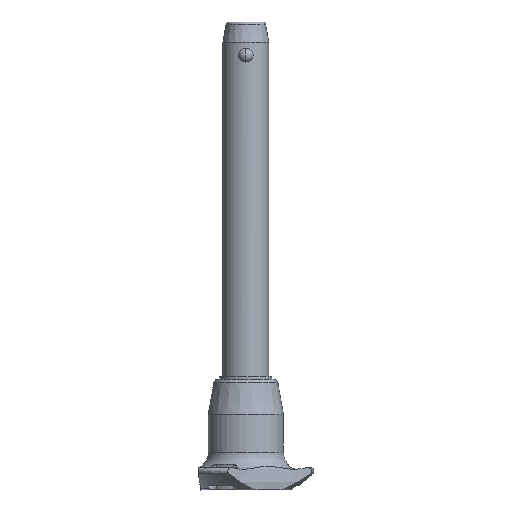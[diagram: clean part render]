
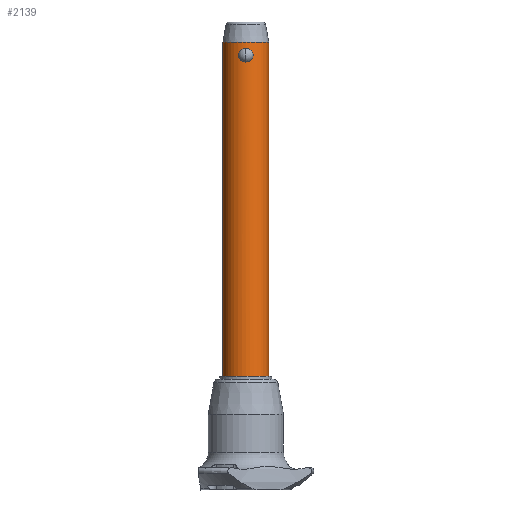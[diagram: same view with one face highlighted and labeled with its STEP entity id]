
A CAD part, front view. The second image highlights one B-rep face of the part: STEP entity #2139.
In plain terms, the highlighted cylindrical face has radius 8 mm (diameter 16 mm), a partial arc.
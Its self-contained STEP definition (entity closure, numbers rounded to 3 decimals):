
#9 = CARTESIAN_POINT ( 'NONE',  ( 2.46, -7.613, 1.742 ) ) ;
#21 = CARTESIAN_POINT ( 'NONE',  ( 0.645, -7.976, 4.704 ) ) ;
#31 = VECTOR ( 'NONE', #2666, 1000. ) ;
#47 = CARTESIAN_POINT ( 'NONE',  ( 2.275, -7.67, 1.291 ) ) ;
#186 = DIRECTION ( 'NONE',  ( 1., 0., 0. ) ) ;
#210 = CARTESIAN_POINT ( 'NONE',  ( 1.529, -7.854, 4.312 ) ) ;
#226 = CARTESIAN_POINT ( 'NONE',  ( 2.547, -7.584, 2.549 ) ) ;
#228 = CYLINDRICAL_SURFACE ( 'NONE', #1518, 8. ) ;
#238 = DIRECTION ( 'NONE',  ( 0., 0., 1. ) ) ;
#267 = CIRCLE ( 'NONE', #547, 8. ) ;
#294 = CARTESIAN_POINT ( 'NONE',  ( -1.527, -7.854, 4.313 ) ) ;
#306 = CARTESIAN_POINT ( 'NONE',  ( -0.164, -8., 4.775 ) ) ;
#322 = DIRECTION ( 'NONE',  ( 0., 0., -1. ) ) ;
#324 = CARTESIAN_POINT ( 'NONE',  ( -8., 0., 7. ) ) ;
#387 = VERTEX_POINT ( 'NONE', #487 ) ;
#392 = EDGE_LOOP ( 'NONE', ( #438, #1009, #2014, #1798 ) ) ;
#404 = FACE_OUTER_BOUND ( 'NONE', #392, .T. ) ;
#410 = EDGE_CURVE ( 'NONE', #1760, #894, #461, .T. ) ;
#421 = CARTESIAN_POINT ( 'NONE',  ( -1.896, -7.773, 4.001 ) ) ;
#436 = CARTESIAN_POINT ( 'NONE',  ( 0., -8., 4.775 ) ) ;
#438 = ORIENTED_EDGE ( 'NONE', *, *, #1503, .F. ) ;
#461 = LINE ( 'NONE', #1825, #2400 ) ;
#464 = CARTESIAN_POINT ( 'NONE',  ( 0.164, -8., 4.775 ) ) ;
#477 = CARTESIAN_POINT ( 'NONE',  ( 2.529, -7.59, 2.71 ) ) ;
#487 = CARTESIAN_POINT ( 'NONE',  ( -8., 0., -110. ) ) ;
#488 = CARTESIAN_POINT ( 'NONE',  ( 1.252, -7.903, 0.296 ) ) ;
#489 = CARTESIAN_POINT ( 'NONE',  ( -8., 0., -110. ) ) ;
#500 = DIRECTION ( 'NONE',  ( 0., 0., -1. ) ) ;
#517 = CARTESIAN_POINT ( 'NONE',  ( -0.645, -7.976, 4.704 ) ) ;
#547 = AXIS2_PLACEMENT_3D ( 'NONE', #1629, #322, #2780 ) ;
#604 = CARTESIAN_POINT ( 'NONE',  ( -1.659, -7.827, 0.559 ) ) ;
#615 = CARTESIAN_POINT ( 'NONE',  ( -2.461, -7.612, 1.746 ) ) ;
#630 = CARTESIAN_POINT ( 'NONE',  ( -2.016, -7.746, 0.883 ) ) ;
#676 = CARTESIAN_POINT ( 'NONE',  ( 2.408, -7.629, 1.586 ) ) ;
#692 = CARTESIAN_POINT ( 'NONE',  ( 2.194, -7.694, 1.153 ) ) ;
#713 = CARTESIAN_POINT ( 'NONE',  ( 1.253, -7.903, 4.478 ) ) ;
#744 = CARTESIAN_POINT ( 'NONE',  ( -1.107, -7.924, 4.548 ) ) ;
#803 = CARTESIAN_POINT ( 'NONE',  ( -0.652, -7.979, 0.058 ) ) ;
#817 = CARTESIAN_POINT ( 'NONE',  ( -0.324, -8., 0. ) ) ;
#835 = CARTESIAN_POINT ( 'NONE',  ( -2.193, -7.694, 3.623 ) ) ;
#861 = CARTESIAN_POINT ( 'NONE',  ( -1.106, -7.925, 0.226 ) ) ;
#894 = VERTEX_POINT ( 'NONE', #1096 ) ;
#931 = CARTESIAN_POINT ( 'NONE',  ( 1.105, -7.925, 0.226 ) ) ;
#1009 = ORIENTED_EDGE ( 'NONE', *, *, #1856, .F. ) ;
#1021 = CARTESIAN_POINT ( 'NONE',  ( -2.459, -7.613, 3.036 ) ) ;
#1058 = ORIENTED_EDGE ( 'NONE', *, *, #2529, .F. ) ;
#1096 = CARTESIAN_POINT ( 'NONE',  ( 8., 0., 7. ) ) ;
#1125 = CARTESIAN_POINT ( 'NONE',  ( 0., -8., 0. ) ) ;
#1143 = VERTEX_POINT ( 'NONE', #1205 ) ;
#1179 = B_SPLINE_CURVE_WITH_KNOTS ( 'NONE', 3,
 ( #2340, #306, #2559, #517, #1396, #744, #2284, #294, #2817, #421, #1699, #835, #1717, #2785, #1021, #2155, #1281, #2622, #2593, #615, #2128, #1932, #630, #604, #2607, #1486, #861, #803, #817, #1680 ),
 .UNSPECIFIED., .F., .F.,
 ( 4, 2, 2, 2, 2, 2, 2, 2, 2, 2, 2, 2, 2, 2, 4 ),
 ( 0., 0., 0.001, 0.001, 0.002, 0.002, 0.003, 0.003, 0.004, 0.004, 0.005, 0.006, 0.006, 0.007, 0.008 ),
 .UNSPECIFIED. ) ;
#1197 = EDGE_CURVE ( 'NONE', #1143, #2390, #1179, .T. ) ;
#1205 = CARTESIAN_POINT ( 'NONE',  ( 0., -8., 4.775 ) ) ;
#1281 = CARTESIAN_POINT ( 'NONE',  ( -2.546, -7.584, 2.553 ) ) ;
#1283 = CARTESIAN_POINT ( 'NONE',  ( 0., 0., -110. ) ) ;
#1325 = FACE_BOUND ( 'NONE', #2667, .T. ) ;
#1343 = CARTESIAN_POINT ( 'NONE',  ( 0.652, -7.979, 0.058 ) ) ;
#1354 = CARTESIAN_POINT ( 'NONE',  ( 2.528, -7.59, 2.058 ) ) ;
#1366 = CARTESIAN_POINT ( 'NONE',  ( 0.804, -7.961, 4.661 ) ) ;
#1382 = DIRECTION ( 'NONE',  ( 1., 0., 0. ) ) ;
#1396 = CARTESIAN_POINT ( 'NONE',  ( -0.803, -7.961, 4.661 ) ) ;
#1486 = CARTESIAN_POINT ( 'NONE',  ( -1.254, -7.902, 0.297 ) ) ;
#1503 = EDGE_CURVE ( 'NONE', #387, #2713, #1580, .T. ) ;
#1518 = AXIS2_PLACEMENT_3D ( 'NONE', #1283, #2173, #186 ) ;
#1554 = CARTESIAN_POINT ( 'NONE',  ( 1.894, -7.773, 0.773 ) ) ;
#1580 = LINE ( 'NONE', #489, #31 ) ;
#1591 = CARTESIAN_POINT ( 'NONE',  ( 0.326, -7.995, 4.761 ) ) ;
#1629 = CARTESIAN_POINT ( 'NONE',  ( 0., 0., -110. ) ) ;
#1680 = CARTESIAN_POINT ( 'NONE',  ( 0., -8., 0. ) ) ;
#1699 = CARTESIAN_POINT ( 'NONE',  ( -2.003, -7.746, 3.882 ) ) ;
#1717 = CARTESIAN_POINT ( 'NONE',  ( -2.276, -7.67, 3.482 ) ) ;
#1756 = AXIS2_PLACEMENT_3D ( 'NONE', #2312, #500, #1382 ) ;
#1760 = VERTEX_POINT ( 'NONE', #2796 ) ;
#1798 = ORIENTED_EDGE ( 'NONE', *, *, #2586, .T. ) ;
#1815 = CARTESIAN_POINT ( 'NONE',  ( 2.016, -7.746, 3.891 ) ) ;
#1825 = CARTESIAN_POINT ( 'NONE',  ( 8., 0., -110. ) ) ;
#1856 = EDGE_CURVE ( 'NONE', #1760, #387, #267, .T. ) ;
#1932 = CARTESIAN_POINT ( 'NONE',  ( -2.211, -7.69, 1.148 ) ) ;
#1978 = CARTESIAN_POINT ( 'NONE',  ( 2.004, -7.746, 0.894 ) ) ;
#2014 = ORIENTED_EDGE ( 'NONE', *, *, #410, .T. ) ;
#2031 = CIRCLE ( 'NONE', #1756, 8. ) ;
#2036 = CARTESIAN_POINT ( 'NONE',  ( 2.41, -7.629, 3.184 ) ) ;
#2128 = CARTESIAN_POINT ( 'NONE',  ( -2.411, -7.628, 1.592 ) ) ;
#2139 = ADVANCED_FACE ( 'NONE', ( #404, #1325 ), #228, .T. ) ;
#2155 = CARTESIAN_POINT ( 'NONE',  ( -2.529, -7.59, 2.716 ) ) ;
#2173 = DIRECTION ( 'NONE',  ( 0., 0., 1. ) ) ;
#2198 = CARTESIAN_POINT ( 'NONE',  ( 2.461, -7.612, 3.027 ) ) ;
#2211 = CARTESIAN_POINT ( 'NONE',  ( 2.546, -7.584, 2.22 ) ) ;
#2284 = CARTESIAN_POINT ( 'NONE',  ( -1.252, -7.903, 4.479 ) ) ;
#2312 = CARTESIAN_POINT ( 'NONE',  ( 0., 0., 7. ) ) ;
#2340 = CARTESIAN_POINT ( 'NONE',  ( 0., -8., 4.775 ) ) ;
#2390 = VERTEX_POINT ( 'NONE', #2502 ) ;
#2400 = VECTOR ( 'NONE', #238, 1000. ) ;
#2438 = ORIENTED_EDGE ( 'NONE', *, *, #1197, .F. ) ;
#2448 = CARTESIAN_POINT ( 'NONE',  ( 2.211, -7.69, 3.626 ) ) ;
#2463 = CARTESIAN_POINT ( 'NONE',  ( 1.657, -7.827, 0.558 ) ) ;
#2502 = CARTESIAN_POINT ( 'NONE',  ( 0., -8., 0. ) ) ;
#2529 = EDGE_CURVE ( 'NONE', #2390, #1143, #2597, .T. ) ;
#2559 = CARTESIAN_POINT ( 'NONE',  ( -0.326, -7.995, 4.761 ) ) ;
#2586 = EDGE_CURVE ( 'NONE', #894, #2713, #2031, .T. ) ;
#2593 = CARTESIAN_POINT ( 'NONE',  ( -2.529, -7.59, 2.064 ) ) ;
#2597 = B_SPLINE_CURVE_WITH_KNOTS ( 'NONE', 3,
 ( #1125, #2665, #1343, #931, #488, #2677, #2463, #1554, #1978, #692, #47, #676, #9, #1354, #2211, #226, #477, #2198, #2036, #2448, #1815, #2699, #210, #713, #2652, #1366, #21, #1591, #464, #436 ),
 .UNSPECIFIED., .F., .F.,
 ( 4, 2, 2, 2, 2, 2, 2, 2, 2, 2, 2, 2, 2, 2, 4 ),
 ( 0.008, 0.009, 0.009, 0.01, 0.01, 0.011, 0.011, 0.012, 0.012, 0.013, 0.014, 0.014, 0.015, 0.015, 0.016 ),
 .UNSPECIFIED. ) ;
#2607 = CARTESIAN_POINT ( 'NONE',  ( -1.53, -7.854, 0.464 ) ) ;
#2622 = CARTESIAN_POINT ( 'NONE',  ( -2.547, -7.584, 2.229 ) ) ;
#2652 = CARTESIAN_POINT ( 'NONE',  ( 1.108, -7.924, 4.548 ) ) ;
#2665 = CARTESIAN_POINT ( 'NONE',  ( 0.324, -8., 0. ) ) ;
#2666 = DIRECTION ( 'NONE',  ( 0., 0., 1. ) ) ;
#2667 = EDGE_LOOP ( 'NONE', ( #2438, #1058 ) ) ;
#2677 = CARTESIAN_POINT ( 'NONE',  ( 1.529, -7.854, 0.463 ) ) ;
#2699 = CARTESIAN_POINT ( 'NONE',  ( 1.66, -7.827, 4.215 ) ) ;
#2713 = VERTEX_POINT ( 'NONE', #324 ) ;
#2780 = DIRECTION ( 'NONE',  ( 1., 0., 0. ) ) ;
#2785 = CARTESIAN_POINT ( 'NONE',  ( -2.408, -7.629, 3.189 ) ) ;
#2796 = CARTESIAN_POINT ( 'NONE',  ( 8., 0., -110. ) ) ;
#2817 = CARTESIAN_POINT ( 'NONE',  ( -1.658, -7.827, 4.216 ) ) ;
